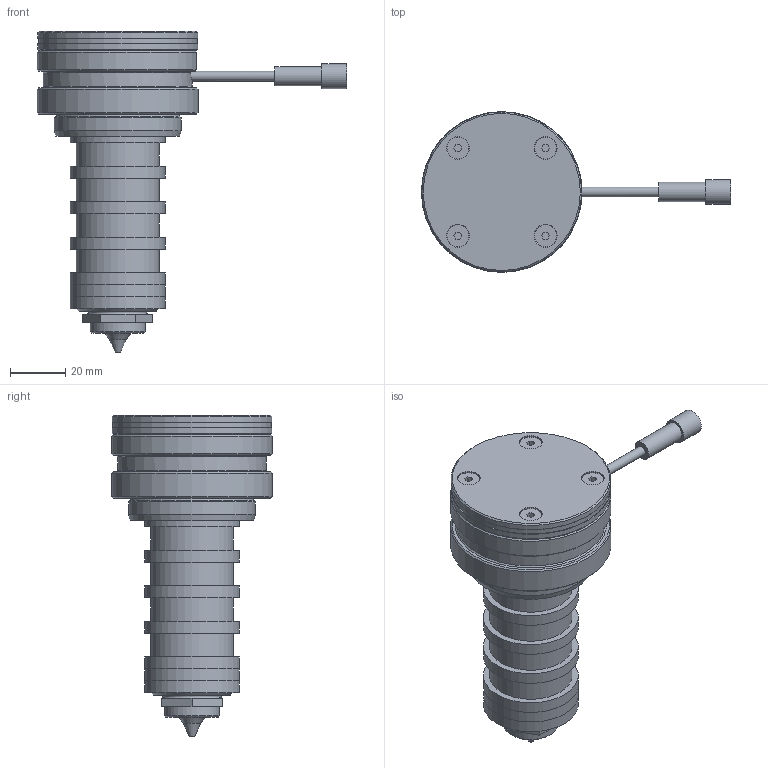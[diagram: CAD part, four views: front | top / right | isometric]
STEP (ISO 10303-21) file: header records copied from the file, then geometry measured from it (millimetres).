
FILE_DESCRIPTION(('STEP AP214'),'1');
FILE_NAME('FLM10-A.stp','2018-06-12T08:55:42',(' '),(' '),'Spatial InterOp 3D',' ',' ');
FILE_SCHEMA(('AUTOMOTIVE_DESIGN { 1 0 10303 214 1 1 1 1 }'));
Length unit declared in the file: millimetre
Products named in the file (1): 1
Bounding box: 112.15 x 58.3 x 116.56 mm (x, y, z)
Volume: 133894.7 mm3; surface area: 35091.7 mm2
Topology: 6 solids, 6 shells, 164 faces, 355 edges, 227 vertices
Faces by surface type: plane 78, cylinder 46, cone 31, torus 6, revolution 3
Full cylindrical faces by diameter (mm): 3.3 x4, 3.5 x1, 4 x4, 4.5 x4, 7 x1, 8.3 x4, 9 x1, 20 x1, 30 x6, 34.4 x10, 40 x1, 46 x1, 54 x1, 57.5 x1, 58 x2, 58.3 x1
Entity records: 5397 total; most frequent: CARTESIAN_POINT 836, DIRECTION 695, ORIENTED_EDGE 508, AXIS2_PLACEMENT_3D 291, EDGE_LOOP 275, EDGE_CURVE 254, FACE_OUTER_BOUND 215, VERTEX_POINT 207
